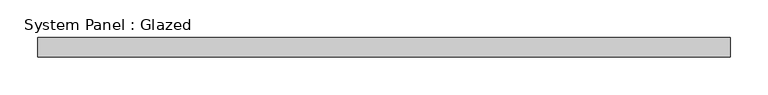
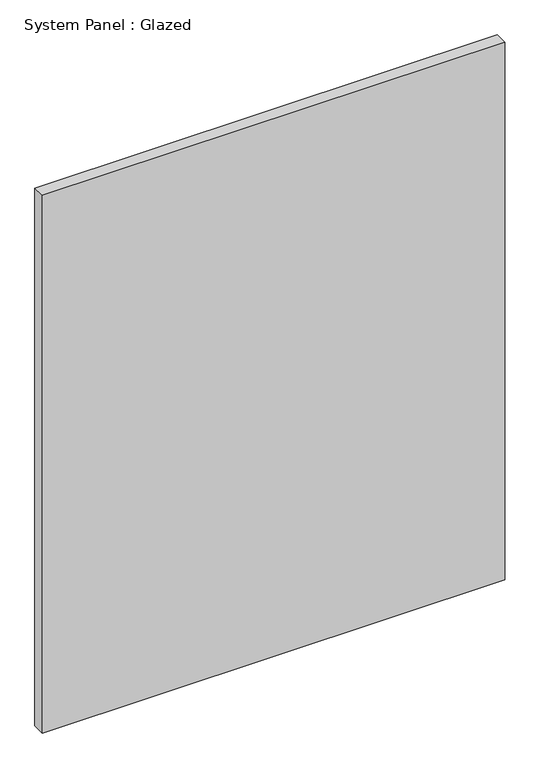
"""IFC4 building model written with IfcOpenShell, lengths in millimetres: plate geometry, System Panel : Glazed."""

from ifc_helpers import new_model, si_unit, origin, origin_with_axes, place, context, project, spatial, polyline, outline, extrude, source, transform, mapped, element, save


def system_panel_glazed_1925881f(model_context):
    return source(origin(), model_context, "Body", "SweptSolid", [
        extrude(outline(polyline([(457.2, 19.05), (-457.2, 19.05), (-457.2, 44.45), (457.2, 44.45), (457.2, 19.05)])), origin_with_axes(), (0.0, 0.0, 1.0), 1123.95),
    ])


if __name__ == "__main__":
    model = new_model("IFC4")
    model_context = context("Model", 3, world=origin())
    ifc_project = project(units=[si_unit("LENGTHUNIT", "METRE", prefix="MILLI")], contexts=[model_context])
    site = spatial("IfcSite", under=ifc_project)
    building = spatial("IfcBuilding", under=site)
    placement = place(None, origin())
    system_panel_glazed_shape = system_panel_glazed_1925881f(model_context)
    element("IfcPlate", 1, ObjectType="System Panel : Glazed", at=placement, inside=building, context=model_context, shape_type="MappedRepresentation", body=[
        mapped(system_panel_glazed_shape, transform((0.0, 0.0, 0.0), x_axis=(1.0, 0.0, 0.0), y_axis=(0.0, 1.0, 0.0), z_axis=(0.0, 0.0, 1.0))),
    ])
    save(model, "model.ifc")
